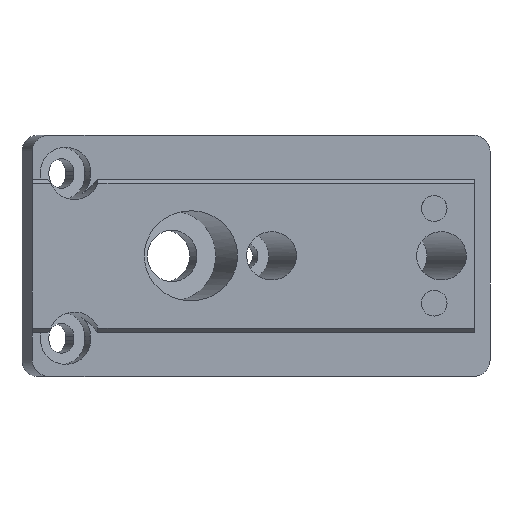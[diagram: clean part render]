
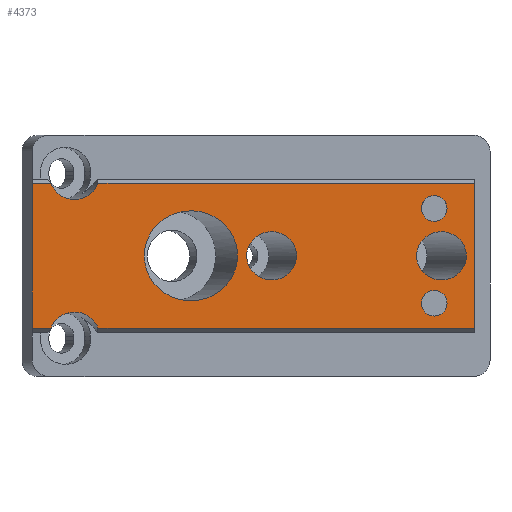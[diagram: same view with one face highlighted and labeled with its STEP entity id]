
A CAD part, top view. The second image highlights one B-rep face of the part: STEP entity #4373.
In plain terms, the highlighted planar face has unit normal (0, 0, 1).
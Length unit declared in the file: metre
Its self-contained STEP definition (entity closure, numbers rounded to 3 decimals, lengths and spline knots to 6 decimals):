
#144=ELLIPSE('',#4651,0.005798,0.0056);
#145=ELLIPSE('',#4652,0.003106,0.003);
#146=ELLIPSE('',#4653,0.003106,0.003);
#147=ELLIPSE('',#4656,0.003106,0.003);
#148=ELLIPSE('',#4657,0.003106,0.003);
#232=CIRCLE('',#4654,0.0016);
#233=CIRCLE('',#4655,0.0016);
#335=ORIENTED_EDGE('',*,*,#1653,.T.);
#336=ORIENTED_EDGE('',*,*,#1654,.T.);
#337=ORIENTED_EDGE('',*,*,#1655,.T.);
#338=ORIENTED_EDGE('',*,*,#1656,.T.);
#339=ORIENTED_EDGE('',*,*,#1657,.T.);
#340=ORIENTED_EDGE('',*,*,#1658,.F.);
#341=ORIENTED_EDGE('',*,*,#1659,.T.);
#342=ORIENTED_EDGE('',*,*,#1660,.F.);
#343=ORIENTED_EDGE('',*,*,#1661,.T.);
#344=ORIENTED_EDGE('',*,*,#1662,.F.);
#345=ORIENTED_EDGE('',*,*,#1663,.T.);
#346=ORIENTED_EDGE('',*,*,#1664,.T.);
#347=ORIENTED_EDGE('',*,*,#1665,.T.);
#1653=EDGE_CURVE('',#2312,#2312,#144,.T.);
#1654=EDGE_CURVE('',#2313,#2313,#145,.T.);
#1655=EDGE_CURVE('',#2314,#2314,#146,.T.);
#1656=EDGE_CURVE('',#2315,#2315,#232,.T.);
#1657=EDGE_CURVE('',#2316,#2316,#233,.T.);
#1658=EDGE_CURVE('',#2317,#2318,#147,.F.);
#1659=EDGE_CURVE('',#2317,#2319,#2737,.T.);
#1660=EDGE_CURVE('',#2320,#2319,#2738,.T.);
#1661=EDGE_CURVE('',#2320,#2321,#2739,.T.);
#1662=EDGE_CURVE('',#2322,#2321,#148,.F.);
#1663=EDGE_CURVE('',#2322,#2323,#2740,.T.);
#1664=EDGE_CURVE('',#2323,#2324,#2741,.T.);
#1665=EDGE_CURVE('',#2324,#2318,#2742,.T.);
#2312=VERTEX_POINT('',#6100);
#2313=VERTEX_POINT('',#6102);
#2314=VERTEX_POINT('',#6104);
#2315=VERTEX_POINT('',#6106);
#2316=VERTEX_POINT('',#6108);
#2317=VERTEX_POINT('',#6110);
#2318=VERTEX_POINT('',#6111);
#2319=VERTEX_POINT('',#6113);
#2320=VERTEX_POINT('',#6115);
#2321=VERTEX_POINT('',#6117);
#2322=VERTEX_POINT('',#6119);
#2323=VERTEX_POINT('',#6121);
#2324=VERTEX_POINT('',#6123);
#2737=LINE('',#6112,#3204);
#2738=LINE('',#6114,#3205);
#2739=LINE('',#6116,#3206);
#2740=LINE('',#6120,#3207);
#2741=LINE('',#6122,#3208);
#2742=LINE('',#6124,#3209);
#3204=VECTOR('',#5015,1.);
#3205=VECTOR('',#5016,1.);
#3206=VECTOR('',#5017,1.);
#3207=VECTOR('',#5020,1.);
#3208=VECTOR('',#5021,1.);
#3209=VECTOR('',#5022,1.);
#3658=EDGE_LOOP('',(#335));
#3659=EDGE_LOOP('',(#336));
#3660=EDGE_LOOP('',(#337));
#3661=EDGE_LOOP('',(#338));
#3662=EDGE_LOOP('',(#339));
#3663=EDGE_LOOP('',(#340,#341,#342,#343,#344,#345,#346,#347));
#3941=FACE_BOUND('',#3658,.T.);
#3942=FACE_BOUND('',#3659,.T.);
#3943=FACE_BOUND('',#3660,.T.);
#3944=FACE_BOUND('',#3661,.T.);
#3945=FACE_BOUND('',#3662,.T.);
#3946=FACE_BOUND('',#3663,.T.);
#4216=PLANE('',#4650);
#4373=ADVANCED_FACE('',(#3941,#3942,#3943,#3944,#3945,#3946),#4216,.F.);
#4650=AXIS2_PLACEMENT_3D('',#6098,#5001,#5002);
#4651=AXIS2_PLACEMENT_3D('',#6099,#5003,#5004);
#4652=AXIS2_PLACEMENT_3D('',#6101,#5005,#5006);
#4653=AXIS2_PLACEMENT_3D('',#6103,#5007,#5008);
#4654=AXIS2_PLACEMENT_3D('',#6105,#5009,#5010);
#4655=AXIS2_PLACEMENT_3D('',#6107,#5011,#5012);
#4656=AXIS2_PLACEMENT_3D('',#6109,#5013,#5014);
#4657=AXIS2_PLACEMENT_3D('',#6118,#5018,#5019);
#5001=DIRECTION('',(0.,0.,-1.));
#5002=DIRECTION('',(-1.,0.,0.));
#5003=DIRECTION('',(0.,0.,-1.));
#5004=DIRECTION('',(-1.,0.,0.));
#5005=DIRECTION('',(0.,0.,-1.));
#5006=DIRECTION('',(-1.,0.,0.));
#5007=DIRECTION('',(0.,0.,-1.));
#5008=DIRECTION('',(-1.,0.,0.));
#5009=DIRECTION('',(0.,0.,-1.));
#5010=DIRECTION('',(-1.,0.,0.));
#5011=DIRECTION('',(0.,0.,-1.));
#5012=DIRECTION('',(-1.,0.,0.));
#5013=DIRECTION('',(0.,0.,-1.));
#5014=DIRECTION('',(-1.,0.,0.));
#5015=DIRECTION('',(1.,0.,0.));
#5016=DIRECTION('',(0.,-1.,0.));
#5017=DIRECTION('',(-1.,0.,0.));
#5018=DIRECTION('',(0.,0.,-1.));
#5019=DIRECTION('',(-1.,0.,0.));
#5020=DIRECTION('',(-1.,0.,0.));
#5021=DIRECTION('',(0.,-1.,0.));
#5022=DIRECTION('',(1.,0.,0.));
#6098=CARTESIAN_POINT('',(0.055,0.,0.0041));
#6099=CARTESIAN_POINT('',(0.019734,0.,0.0041));
#6100=CARTESIAN_POINT('',(0.013936,0.,0.0041));
#6101=CARTESIAN_POINT('',(0.050895,0.,0.0041));
#6102=CARTESIAN_POINT('',(0.04779,0.,0.0041));
#6103=CARTESIAN_POINT('',(0.029776,0.,0.0041));
#6104=CARTESIAN_POINT('',(0.02667,0.,0.0041));
#6105=CARTESIAN_POINT('',(0.05,0.0059,0.0041));
#6106=CARTESIAN_POINT('',(0.0484,0.0059,0.0041));
#6107=CARTESIAN_POINT('',(0.05,-0.0059,0.0041));
#6108=CARTESIAN_POINT('',(0.0484,-0.0059,0.0041));
#6109=CARTESIAN_POINT('',(0.00524,-0.01,0.0041));
#6110=CARTESIAN_POINT('',(0.00817,-0.009004,0.0041));
#6111=CARTESIAN_POINT('',(0.00231,-0.009004,0.0041));
#6112=CARTESIAN_POINT('',(0.055,-0.009004,0.0041));
#6113=CARTESIAN_POINT('',(0.055,-0.009004,0.0041));
#6114=CARTESIAN_POINT('',(0.055,0.,0.0041));
#6115=CARTESIAN_POINT('',(0.055,0.009004,0.0041));
#6116=CARTESIAN_POINT('',(0.,0.009004,0.0041));
#6117=CARTESIAN_POINT('',(0.00817,0.009004,0.0041));
#6118=CARTESIAN_POINT('',(0.00524,0.01,0.0041));
#6119=CARTESIAN_POINT('',(0.00231,0.009004,0.0041));
#6120=CARTESIAN_POINT('',(0.,0.009004,0.0041));
#6121=CARTESIAN_POINT('',(0.,0.009004,0.0041));
#6122=CARTESIAN_POINT('',(0.,0.,0.0041));
#6123=CARTESIAN_POINT('',(0.,-0.009004,0.0041));
#6124=CARTESIAN_POINT('',(0.055,-0.009004,0.0041));
